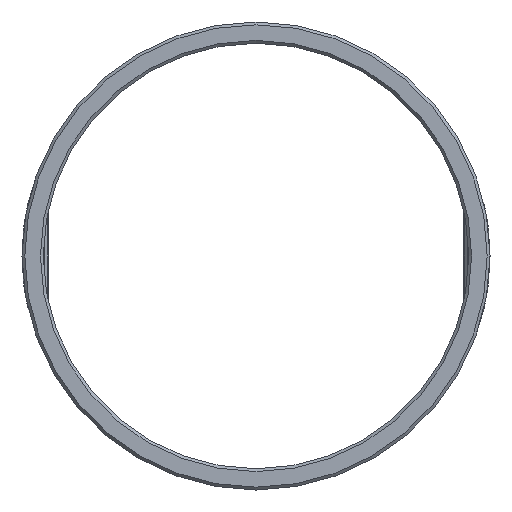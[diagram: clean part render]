
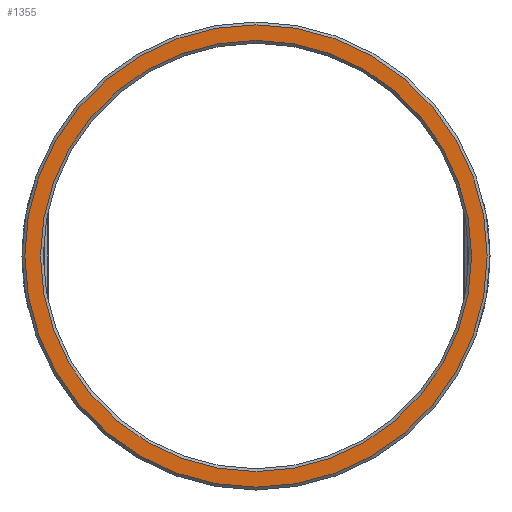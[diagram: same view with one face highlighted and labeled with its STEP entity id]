
A CAD part, left-side view. The second image highlights one B-rep face of the part: STEP entity #1355.
In plain terms, the highlighted planar face has unit normal (-1, 0, 0).
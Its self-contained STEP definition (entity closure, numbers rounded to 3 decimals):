
#1324=CARTESIAN_POINT('',(-11.6,7.6,0.));
#1325=VERTEX_POINT('',#1324);
#1326=CARTESIAN_POINT('',(-11.6,0.0,0.0));
#1327=DIRECTION('',(-1.0,0.0,0.0));
#1328=DIRECTION('',(0.0,-1.0,0.0));
#1329=AXIS2_PLACEMENT_3D('',#1326,#1327,#1328);
#1330=CIRCLE('',#1329,7.6);
#1331=EDGE_CURVE('',#1325,#1325,#1330,.T.);
#1336=CARTESIAN_POINT('',(-11.6,7.875,0.0));
#1337=DIRECTION('',(-1.0,0.0,0.0));
#1338=DIRECTION('',(0.0,0.0,1.0));
#1339=AXIS2_PLACEMENT_3D('',#1336,#1337,#1338);
#1340=PLANE('',#1339);
#1341=CARTESIAN_POINT('',(-11.6,8.15,0.));
#1342=VERTEX_POINT('',#1341);
#1343=CARTESIAN_POINT('',(-11.6,0.0,0.0));
#1344=DIRECTION('',(1.0,0.0,0.0));
#1345=DIRECTION('',(0.0,-1.0,0.0));
#1346=AXIS2_PLACEMENT_3D('',#1343,#1344,#1345);
#1347=CIRCLE('',#1346,8.15);
#1348=EDGE_CURVE('',#1342,#1342,#1347,.T.);
#1349=ORIENTED_EDGE('',*,*,#1348,.F.);
#1350=EDGE_LOOP('',(#1349));
#1351=FACE_OUTER_BOUND('',#1350,.T.);
#1352=ORIENTED_EDGE('',*,*,#1331,.F.);
#1353=EDGE_LOOP('',(#1352));
#1354=FACE_BOUND('',#1353,.T.);
#1355=ADVANCED_FACE('',(#1351,#1354),#1340,.T.);
